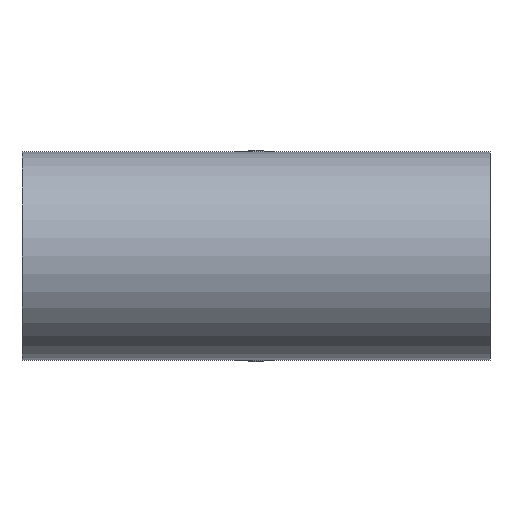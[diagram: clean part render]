
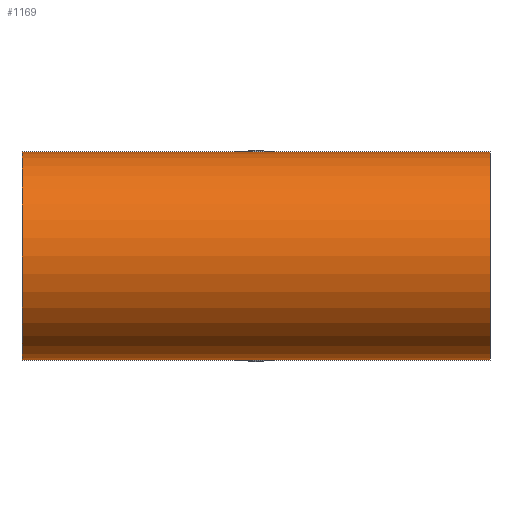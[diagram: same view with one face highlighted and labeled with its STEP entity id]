
A CAD part, front view. The second image highlights one B-rep face of the part: STEP entity #1169.
In plain terms, the highlighted cylindrical face has radius 38.1 mm (diameter 76.2 mm), a partial arc.
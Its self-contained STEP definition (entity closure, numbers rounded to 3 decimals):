
#12 = DIRECTION ( 'NONE',  ( 1., 0., 0. ) ) ;
#33 = EDGE_CURVE ( 'NONE', #1713, #1691, #103, .T. ) ;
#71 = DIRECTION ( 'NONE',  ( 0., 0., -1. ) ) ;
#103 = CIRCLE ( 'NONE', #1168, 38.1 ) ;
#355 = ORIENTED_EDGE ( 'NONE', *, *, #1133, .T. ) ;
#360 = EDGE_CURVE ( 'NONE', #836, #1713, #610, .T. ) ;
#402 = DIRECTION ( 'NONE',  ( 0., 0., -1. ) ) ;
#452 = AXIS2_PLACEMENT_3D ( 'NONE', #1238, #12, #71 ) ;
#455 = VECTOR ( 'NONE', #1664, 1000. ) ;
#553 = ORIENTED_EDGE ( 'NONE', *, *, #360, .T. ) ;
#610 = LINE ( 'NONE', #1748, #455 ) ;
#617 = DIRECTION ( 'NONE',  ( -1., 0., 0. ) ) ;
#627 = DIRECTION ( 'NONE',  ( 1., 0., 0. ) ) ;
#639 = CARTESIAN_POINT ( 'NONE',  ( 85.7, 0., 0. ) ) ;
#670 = CARTESIAN_POINT ( 'NONE',  ( -85.7, 0., 38.1 ) ) ;
#762 = CARTESIAN_POINT ( 'NONE',  ( -85.7, 0., 0. ) ) ;
#836 = VERTEX_POINT ( 'NONE', #1878 ) ;
#843 = VERTEX_POINT ( 'NONE', #670 ) ;
#1000 = CIRCLE ( 'NONE', #452, 38.1 ) ;
#1133 = EDGE_CURVE ( 'NONE', #843, #836, #1000, .T. ) ;
#1141 = FACE_OUTER_BOUND ( 'NONE', #1230, .T. ) ;
#1168 = AXIS2_PLACEMENT_3D ( 'NONE', #639, #617, #1912 ) ;
#1169 = ADVANCED_FACE ( 'NONE', ( #1141 ), #1229, .T. ) ;
#1229 = CYLINDRICAL_SURFACE ( 'NONE', #1903, 38.1 ) ;
#1230 = EDGE_LOOP ( 'NONE', ( #1686, #355, #553, #1542 ) ) ;
#1238 = CARTESIAN_POINT ( 'NONE',  ( -85.7, 0., 0. ) ) ;
#1326 = VECTOR ( 'NONE', #627, 1000. ) ;
#1409 = LINE ( 'NONE', #1786, #1326 ) ;
#1467 = CARTESIAN_POINT ( 'NONE',  ( 85.7, 0., 38.1 ) ) ;
#1542 = ORIENTED_EDGE ( 'NONE', *, *, #33, .T. ) ;
#1580 = CARTESIAN_POINT ( 'NONE',  ( 85.7, 0., -38.1 ) ) ;
#1589 = DIRECTION ( 'NONE',  ( 1., 0., 0. ) ) ;
#1664 = DIRECTION ( 'NONE',  ( 1., 0., 0. ) ) ;
#1686 = ORIENTED_EDGE ( 'NONE', *, *, #1967, .F. ) ;
#1691 = VERTEX_POINT ( 'NONE', #1467 ) ;
#1713 = VERTEX_POINT ( 'NONE', #1580 ) ;
#1748 = CARTESIAN_POINT ( 'NONE',  ( -85.7, 0., -38.1 ) ) ;
#1786 = CARTESIAN_POINT ( 'NONE',  ( -85.7, 0., 38.1 ) ) ;
#1878 = CARTESIAN_POINT ( 'NONE',  ( -85.7, 0., -38.1 ) ) ;
#1903 = AXIS2_PLACEMENT_3D ( 'NONE', #762, #1589, #402 ) ;
#1912 = DIRECTION ( 'NONE',  ( 0., 0., -1. ) ) ;
#1967 = EDGE_CURVE ( 'NONE', #843, #1691, #1409, .T. ) ;
